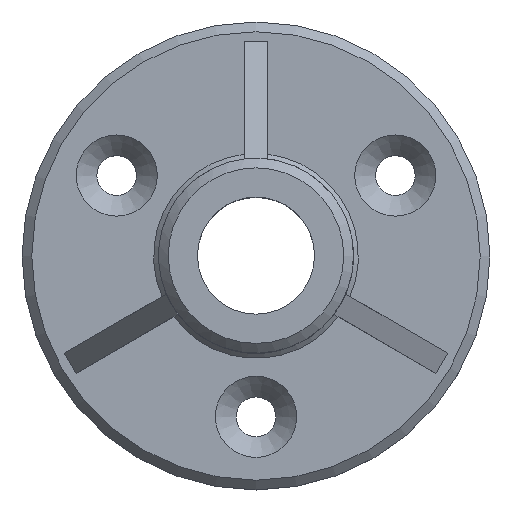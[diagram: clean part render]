
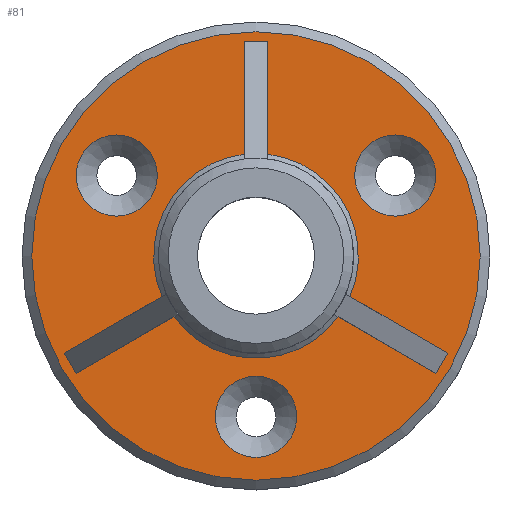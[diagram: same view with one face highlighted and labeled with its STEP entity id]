
A CAD part, top view. The second image highlights one B-rep face of the part: STEP entity #81.
In plain terms, the highlighted planar face has unit normal (0, 0, 1).
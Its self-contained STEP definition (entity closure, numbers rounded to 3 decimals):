
#67=PLANE('',#616);
#81=ADVANCED_FACE('',(#206,#207,#208,#209,#210),#67,.T.);
#133=LINE('',#920,#156);
#134=LINE('',#925,#157);
#135=LINE('',#927,#158);
#136=LINE('',#929,#159);
#137=LINE('',#933,#160);
#138=LINE('',#935,#161);
#139=LINE('',#937,#162);
#140=LINE('',#941,#163);
#141=LINE('',#943,#164);
#156=VECTOR('',#698,1.);
#157=VECTOR('',#701,1.);
#158=VECTOR('',#702,1.);
#159=VECTOR('',#703,1.);
#160=VECTOR('',#706,1.);
#161=VECTOR('',#707,1.);
#162=VECTOR('',#708,1.);
#163=VECTOR('',#711,1.);
#164=VECTOR('',#712,1.);
#177=CIRCLE('',#609,3.47);
#178=CIRCLE('',#610,3.47);
#179=CIRCLE('',#611,3.47);
#180=CIRCLE('',#612,8.75);
#181=CIRCLE('',#613,8.75);
#182=CIRCLE('',#614,8.75);
#183=CIRCLE('',#615,19.167);
#206=FACE_BOUND('',#250,.T.);
#207=FACE_BOUND('',#251,.T.);
#208=FACE_BOUND('',#252,.T.);
#209=FACE_BOUND('',#253,.T.);
#210=FACE_BOUND('',#254,.T.);
#250=EDGE_LOOP('',(#323));
#251=EDGE_LOOP('',(#324));
#252=EDGE_LOOP('',(#325));
#253=EDGE_LOOP('',(#326,#327,#328,#329,#330,#331,#332,#333,#334,#335,#336,
#337));
#254=EDGE_LOOP('',(#338));
#323=ORIENTED_EDGE('',*,*,#524,.T.);
#324=ORIENTED_EDGE('',*,*,#525,.T.);
#325=ORIENTED_EDGE('',*,*,#526,.T.);
#326=ORIENTED_EDGE('',*,*,#527,.F.);
#327=ORIENTED_EDGE('',*,*,#528,.T.);
#328=ORIENTED_EDGE('',*,*,#529,.T.);
#329=ORIENTED_EDGE('',*,*,#530,.F.);
#330=ORIENTED_EDGE('',*,*,#531,.F.);
#331=ORIENTED_EDGE('',*,*,#532,.T.);
#332=ORIENTED_EDGE('',*,*,#533,.T.);
#333=ORIENTED_EDGE('',*,*,#534,.F.);
#334=ORIENTED_EDGE('',*,*,#535,.F.);
#335=ORIENTED_EDGE('',*,*,#536,.T.);
#336=ORIENTED_EDGE('',*,*,#537,.T.);
#337=ORIENTED_EDGE('',*,*,#538,.T.);
#338=ORIENTED_EDGE('',*,*,#539,.T.);
#469=VERTEX_POINT('',#915);
#470=VERTEX_POINT('',#917);
#471=VERTEX_POINT('',#919);
#472=VERTEX_POINT('',#921);
#473=VERTEX_POINT('',#922);
#474=VERTEX_POINT('',#924);
#475=VERTEX_POINT('',#926);
#476=VERTEX_POINT('',#928);
#477=VERTEX_POINT('',#930);
#478=VERTEX_POINT('',#932);
#479=VERTEX_POINT('',#934);
#480=VERTEX_POINT('',#936);
#481=VERTEX_POINT('',#938);
#482=VERTEX_POINT('',#940);
#483=VERTEX_POINT('',#942);
#484=VERTEX_POINT('',#945);
#524=EDGE_CURVE('',#469,#469,#177,.T.);
#525=EDGE_CURVE('',#470,#470,#178,.T.);
#526=EDGE_CURVE('',#471,#471,#179,.T.);
#527=EDGE_CURVE('',#472,#473,#133,.T.);
#528=EDGE_CURVE('',#472,#474,#180,.T.);
#529=EDGE_CURVE('',#474,#475,#134,.T.);
#530=EDGE_CURVE('',#476,#475,#135,.T.);
#531=EDGE_CURVE('',#477,#476,#136,.T.);
#532=EDGE_CURVE('',#477,#478,#181,.T.);
#533=EDGE_CURVE('',#478,#479,#137,.T.);
#534=EDGE_CURVE('',#480,#479,#138,.T.);
#535=EDGE_CURVE('',#481,#480,#139,.T.);
#536=EDGE_CURVE('',#481,#482,#182,.T.);
#537=EDGE_CURVE('',#482,#483,#140,.T.);
#538=EDGE_CURVE('',#483,#473,#141,.T.);
#539=EDGE_CURVE('',#484,#484,#183,.T.);
#609=AXIS2_PLACEMENT_3D('',#914,#692,#693);
#610=AXIS2_PLACEMENT_3D('',#916,#694,#695);
#611=AXIS2_PLACEMENT_3D('',#918,#696,#697);
#612=AXIS2_PLACEMENT_3D('',#923,#699,#700);
#613=AXIS2_PLACEMENT_3D('',#931,#704,#705);
#614=AXIS2_PLACEMENT_3D('',#939,#709,#710);
#615=AXIS2_PLACEMENT_3D('',#944,#713,#714);
#616=AXIS2_PLACEMENT_3D('',#946,#715,#716);
#692=DIRECTION('',(0.,0.,-1.));
#693=DIRECTION('',(-1.,0.,0.));
#694=DIRECTION('',(0.,0.,-1.));
#695=DIRECTION('',(-1.,0.,0.));
#696=DIRECTION('',(0.,0.,-1.));
#697=DIRECTION('',(-1.,0.,0.));
#698=DIRECTION('',(0.,1.,0.));
#699=DIRECTION('',(0.,0.,-1.));
#700=DIRECTION('',(1.,0.,0.));
#701=DIRECTION('',(0.866,-0.5,0.));
#702=DIRECTION('',(0.5,0.866,0.));
#703=DIRECTION('',(0.866,-0.5,0.));
#704=DIRECTION('',(0.,0.,-1.));
#705=DIRECTION('',(1.,0.,0.));
#706=DIRECTION('',(-0.866,-0.5,0.));
#707=DIRECTION('',(0.5,-0.866,0.));
#708=DIRECTION('',(-0.866,-0.5,0.));
#709=DIRECTION('',(0.,0.,-1.));
#710=DIRECTION('',(1.,0.,0.));
#711=DIRECTION('',(0.,1.,0.));
#712=DIRECTION('',(1.,0.,0.));
#713=DIRECTION('',(0.,0.,1.));
#714=DIRECTION('',(1.,0.,0.));
#715=DIRECTION('',(0.,0.,1.));
#716=DIRECTION('',(1.,0.,0.));
#914=CARTESIAN_POINT('',(0.,-13.75,3.333));
#915=CARTESIAN_POINT('',(-3.47,-13.75,3.333));
#916=CARTESIAN_POINT('',(11.908,6.875,3.333));
#917=CARTESIAN_POINT('',(8.438,6.875,3.333));
#918=CARTESIAN_POINT('',(-11.908,6.875,3.333));
#919=CARTESIAN_POINT('',(-15.378,6.875,3.333));
#920=CARTESIAN_POINT('',(1.,6.667,3.333));
#921=CARTESIAN_POINT('',(1.,8.693,3.333));
#922=CARTESIAN_POINT('',(1.,18.333,3.333));
#923=CARTESIAN_POINT('',(0.,0.,3.333));
#924=CARTESIAN_POINT('',(8.028,-3.48,3.333));
#925=CARTESIAN_POINT('',(6.274,-2.467,3.333));
#926=CARTESIAN_POINT('',(16.377,-8.301,3.333));
#927=CARTESIAN_POINT('',(15.377,-10.033,3.333));
#928=CARTESIAN_POINT('',(15.377,-10.033,3.333));
#929=CARTESIAN_POINT('',(5.274,-4.199,3.333));
#930=CARTESIAN_POINT('',(7.028,-5.212,3.333));
#931=CARTESIAN_POINT('',(0.,0.,3.333));
#932=CARTESIAN_POINT('',(-7.028,-5.212,3.333));
#933=CARTESIAN_POINT('',(-5.274,-4.199,3.333));
#934=CARTESIAN_POINT('',(-15.377,-10.033,3.333));
#935=CARTESIAN_POINT('',(-16.377,-8.301,3.333));
#936=CARTESIAN_POINT('',(-16.377,-8.301,3.333));
#937=CARTESIAN_POINT('',(-6.274,-2.467,3.333));
#938=CARTESIAN_POINT('',(-8.028,-3.48,3.333));
#939=CARTESIAN_POINT('',(0.,0.,3.333));
#940=CARTESIAN_POINT('',(-1.,8.693,3.333));
#941=CARTESIAN_POINT('',(-1.,6.667,3.333));
#942=CARTESIAN_POINT('',(-1.,18.333,3.333));
#943=CARTESIAN_POINT('',(1.,18.333,3.333));
#944=CARTESIAN_POINT('',(0.,0.,3.333));
#945=CARTESIAN_POINT('',(19.167,0.,3.333));
#946=CARTESIAN_POINT('',(20.,0.,3.333));
